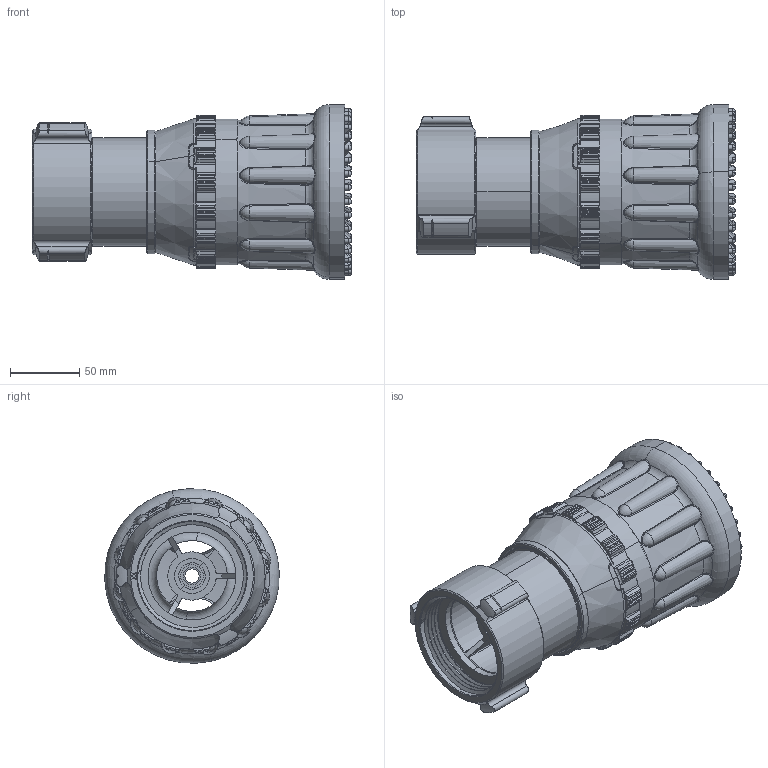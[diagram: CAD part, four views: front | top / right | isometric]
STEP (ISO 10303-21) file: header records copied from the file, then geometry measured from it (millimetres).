
FILE_DESCRIPTION (( 'STEP AP203' ), '1' );
FILE_NAME ('MD12A_Straight Stream.step', '2014-05-13T19:41:26', ( 'user' ), ( '' ), 'SwSTEP 2.0', 'SolidWorks 2012', '' );
FILE_SCHEMA (( 'CONFIG_CONTROL_DESIGN' ));
Length unit declared in the file: inch
Products named in the file (1): MD12A_Straight Stream
Bounding box: 230.2 x 125.79 x 125.79 mm (x, y, z)
Surface area: 179515.7 mm2 (no closed solid volume)
Topology: 0 solids, 15 shells, 1101 faces, 3313 edges, 2093 vertices
Faces by surface type: cylinder 569, plane 167, sphere 142, torus 102, bspline 75, cone 46
Entity records: 47906 total; most frequent: CARTESIAN_POINT 20952, ORIENTED_EDGE 5938, DIRECTION 5170, EDGE_CURVE 3169, AXIS2_PLACEMENT_3D 2094, VERTEX_POINT 2025, EDGE_LOOP 1118, ADVANCED_FACE 1101
